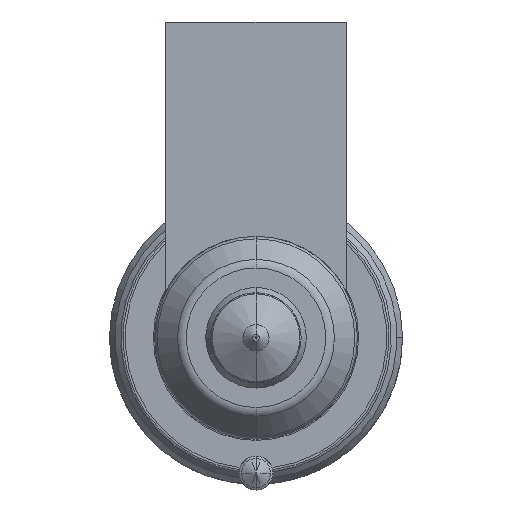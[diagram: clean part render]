
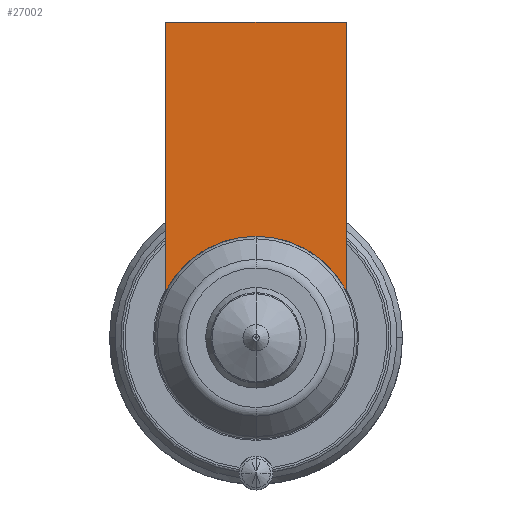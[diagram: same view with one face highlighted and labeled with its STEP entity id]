
A CAD part, front view. The second image highlights one B-rep face of the part: STEP entity #27002.
In plain terms, the highlighted planar face has unit normal (0, -1, 0).
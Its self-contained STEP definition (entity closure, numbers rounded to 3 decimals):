
#26191=CARTESIAN_POINT('',(0.,-54.,0.));
#26192=DIRECTION('',(0.,-1.,0.));
#26193=DIRECTION('',(0.,0.,1.));
#26194=AXIS2_PLACEMENT_3D('',#26191,#26192,#26193);
#26200=DIRECTION('',(1.,0.,0.));
#26201=VECTOR('',#26200,16.);
#26202=CARTESIAN_POINT('',(-8.,-54.,28.));
#26203=LINE('',#26202,#26201);
#26207=CARTESIAN_POINT('',(0.,-54.,0.));
#26208=DIRECTION('',(0.,-1.,0.));
#26209=DIRECTION('',(0.889,0.,0.458));
#26210=AXIS2_PLACEMENT_3D('',#26207,#26208,#26209);
#26360=DIRECTION('',(0.,0.,-1.));
#26361=VECTOR('',#26360,23.877);
#26362=CARTESIAN_POINT('',(8.,-54.,28.));
#26363=LINE('',#26362,#26361);
#26423=DIRECTION('',(0.,0.,-1.));
#26424=VECTOR('',#26423,23.877);
#26425=CARTESIAN_POINT('',(-8.,-54.,28.));
#26426=LINE('',#26425,#26424);
#26960=CARTESIAN_POINT('',(-8.,-54.,28.));
#26961=VERTEX_POINT('',#26960);
#26966=CARTESIAN_POINT('',(8.,-54.,28.));
#26967=VERTEX_POINT('',#26966);
#26972=CARTESIAN_POINT('',(0.,-54.,9.));
#26973=CARTESIAN_POINT('',(-8.,-54.,4.123));
#26974=VERTEX_POINT('',#26972);
#26975=VERTEX_POINT('',#26973);
#26976=CARTESIAN_POINT('',(8.,-54.,4.123));
#26977=VERTEX_POINT('',#26976);
#26985=CARTESIAN_POINT('',(0.,-54.,9.));
#26986=DIRECTION('',(0.,1.,0.));
#26987=DIRECTION('',(0.,0.,-1.));
#26988=AXIS2_PLACEMENT_3D('',#26985,#26986,#26987);
#26989=PLANE('',#26988);
#26991=ORIENTED_EDGE('',*,*,#26990,.T.);
#26993=ORIENTED_EDGE('',*,*,#26992,.F.);
#26995=ORIENTED_EDGE('',*,*,#26994,.T.);
#26997=ORIENTED_EDGE('',*,*,#26996,.T.);
#26999=ORIENTED_EDGE('',*,*,#26998,.T.);
#27000=EDGE_LOOP('',(#26991,#26993,#26995,#26997,#26999));
#27001=FACE_OUTER_BOUND('',#27000,.F.);
#27002=ADVANCED_FACE('',(#27001),#26989,.F.);
#26195=CIRCLE('',#26194,9.);
#26211=CIRCLE('',#26210,9.);
#26990=EDGE_CURVE('',#26974,#26975,#26195,.T.);
#26992=EDGE_CURVE('',#26961,#26975,#26426,.T.);
#26994=EDGE_CURVE('',#26961,#26967,#26203,.T.);
#26996=EDGE_CURVE('',#26967,#26977,#26363,.T.);
#26998=EDGE_CURVE('',#26977,#26974,#26211,.T.);
